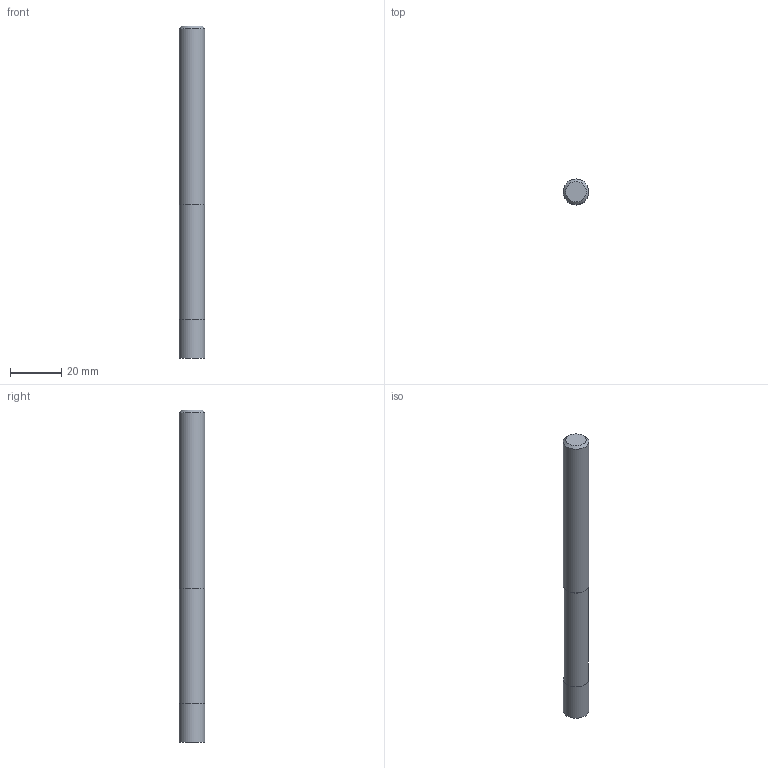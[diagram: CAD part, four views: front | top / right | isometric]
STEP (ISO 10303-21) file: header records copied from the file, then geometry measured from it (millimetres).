
FILE_DESCRIPTION((''),'2;1');
FILE_NAME('C:\Users\nsx150\AppData\Local\Temp\Mastercam 2021\17T8Q8S9EB\TEMP.step','2021-04-21T16:16:47',(''),(''),'STEP Write','Mastercam 2021 ... CNC Software, Inc.','');
FILE_SCHEMA(('AUTOMOTIVE_DESIGN'));
Length unit declared in the file: millimetre
Products named in the file (1): None
Bounding box: 10 x 10 x 130 mm (x, y, z)
Volume: 10055.6 mm3; surface area: 4350.3 mm2
Topology: 2 solids, 2 shells, 9 faces, 11 edges, 7 vertices
Faces by surface type: plane 5, cylinder 3, cone 1
Full cylindrical faces by diameter (mm): 9.8 x1, 10 x2
Entity records: 211 total; most frequent: DIRECTION 36, CARTESIAN_POINT 25, AXIS2_PLACEMENT_3D 18, ORIENTED_EDGE 14, EDGE_LOOP 14, STYLED_ITEM 12, ADVANCED_FACE 9, FACE_BOUND 8
